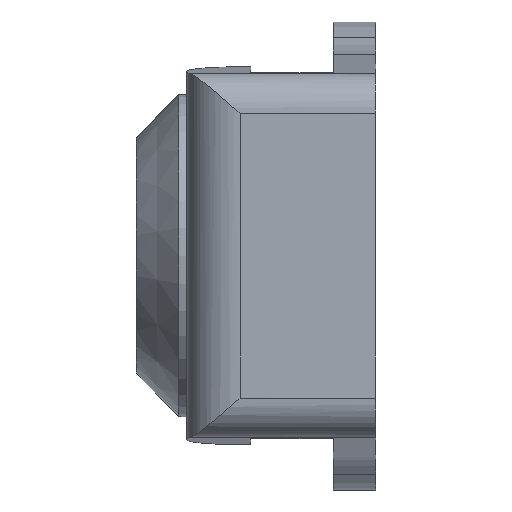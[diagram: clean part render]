
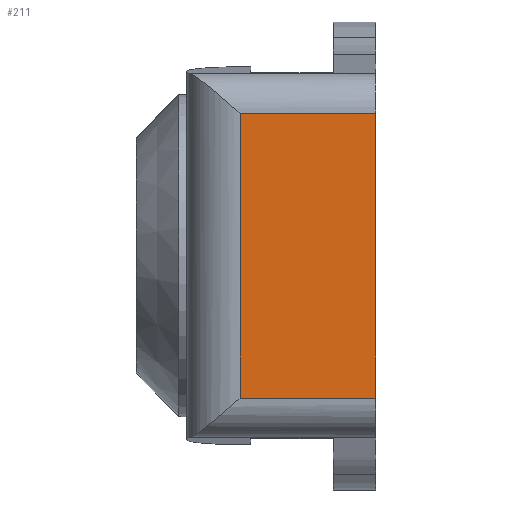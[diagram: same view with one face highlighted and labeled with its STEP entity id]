
A CAD part, left-side view. The second image highlights one B-rep face of the part: STEP entity #211.
In plain terms, the highlighted planar face has unit normal (-1, 0, 0).
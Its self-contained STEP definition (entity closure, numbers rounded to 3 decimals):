
#43 = CARTESIAN_POINT ( 'NONE',  ( -15.45, 5.1, -8.8 ) ) ;
#82 = PLANE ( 'NONE',  #715 ) ;
#137 = CARTESIAN_POINT ( 'NONE',  ( -15.45, 0., -5.35 ) ) ;
#211 = ADVANCED_FACE ( 'NONE', ( #1079 ), #82, .F. ) ;
#359 = CARTESIAN_POINT ( 'NONE',  ( -15.45, 5.1, 5.35 ) ) ;
#369 = VERTEX_POINT ( 'NONE', #1074 ) ;
#433 = CARTESIAN_POINT ( 'NONE',  ( -15.45, 7.1, 5.35 ) ) ;
#521 = ORIENTED_EDGE ( 'NONE', *, *, #1444, .F. ) ;
#528 = CARTESIAN_POINT ( 'NONE',  ( -15.45, 7.1, -5.35 ) ) ;
#530 = VERTEX_POINT ( 'NONE', #137 ) ;
#563 = CARTESIAN_POINT ( 'NONE',  ( -15.45, 0., 5.35 ) ) ;
#597 = DIRECTION ( 'NONE',  ( 0., -1., 0. ) ) ;
#713 = DIRECTION ( 'NONE',  ( 0., 0., -1. ) ) ;
#715 = AXIS2_PLACEMENT_3D ( 'NONE', #528, #864, #713 ) ;
#721 = LINE ( 'NONE', #825, #988 ) ;
#731 = EDGE_LOOP ( 'NONE', ( #521, #1012, #759, #792 ) ) ;
#759 = ORIENTED_EDGE ( 'NONE', *, *, #824, .T. ) ;
#792 = ORIENTED_EDGE ( 'NONE', *, *, #859, .T. ) ;
#822 = LINE ( 'NONE', #43, #1417 ) ;
#824 = EDGE_CURVE ( 'NONE', #369, #530, #721, .T. ) ;
#825 = CARTESIAN_POINT ( 'NONE',  ( -15.45, 7.1, -5.35 ) ) ;
#837 = VERTEX_POINT ( 'NONE', #359 ) ;
#859 = EDGE_CURVE ( 'NONE', #530, #1123, #937, .T. ) ;
#864 = DIRECTION ( 'NONE',  ( 1., 0., 0. ) ) ;
#878 = DIRECTION ( 'NONE',  ( 0., -1., 0. ) ) ;
#937 = LINE ( 'NONE', #1374, #945 ) ;
#945 = VECTOR ( 'NONE', #1264, 1000. ) ;
#946 = DIRECTION ( 'NONE',  ( 0., 0., 1. ) ) ;
#988 = VECTOR ( 'NONE', #597, 1000. ) ;
#1012 = ORIENTED_EDGE ( 'NONE', *, *, #1273, .F. ) ;
#1074 = CARTESIAN_POINT ( 'NONE',  ( -15.45, 5.1, -5.35 ) ) ;
#1079 = FACE_OUTER_BOUND ( 'NONE', #731, .T. ) ;
#1123 = VERTEX_POINT ( 'NONE', #563 ) ;
#1264 = DIRECTION ( 'NONE',  ( 0., 0., 1. ) ) ;
#1273 = EDGE_CURVE ( 'NONE', #369, #837, #822, .T. ) ;
#1350 = LINE ( 'NONE', #433, #1386 ) ;
#1374 = CARTESIAN_POINT ( 'NONE',  ( -15.45, 0., -5.35 ) ) ;
#1386 = VECTOR ( 'NONE', #878, 1000. ) ;
#1417 = VECTOR ( 'NONE', #946, 1000. ) ;
#1444 = EDGE_CURVE ( 'NONE', #837, #1123, #1350, .T. ) ;
